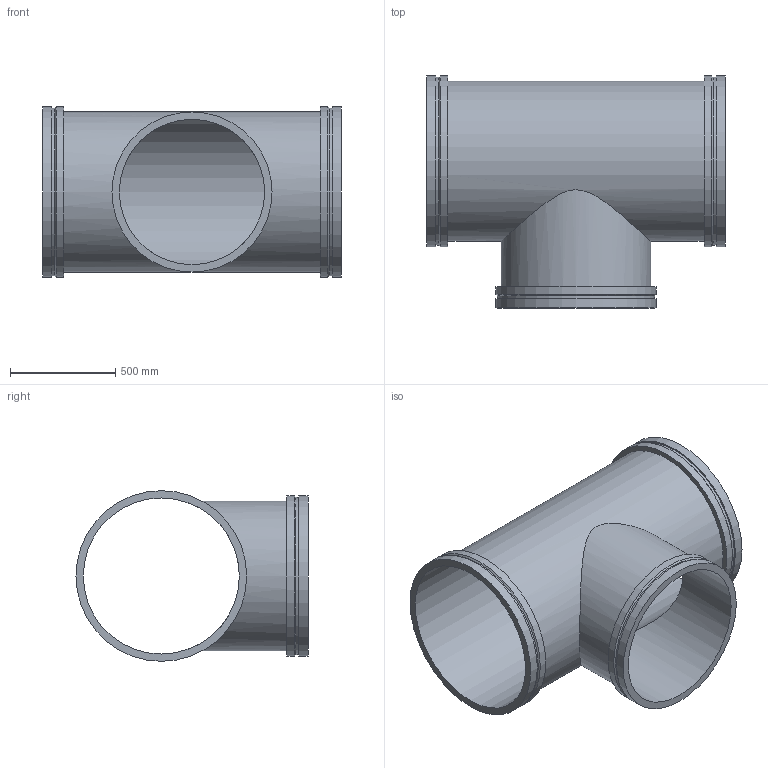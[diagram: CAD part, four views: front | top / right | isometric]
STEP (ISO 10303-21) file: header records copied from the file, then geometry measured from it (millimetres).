
FILE_DESCRIPTION(/* description */ ('VIC REDUCING TEE No W025 VR','CAx-IF Rec.Pracs.---Representation and Presentation of Product Manufacturing Information (PMI)---4.0---2014-10-13'),/* implementation_level */ '2;1');
FILE_NAME(/* name */ 'C:\Users\kkamble\AppData\Roaming\Autodesk\ApplicationPlugins\Back Up\Victaulic_Vic-Ring_Tee Reducing_No W25 VR (AGR)\Victaulic_Vic-Ring_Tee Reducing_No W25 VR (AGR)_30.0x28.0 (750x700).stp',/* time_stamp */ '2020-09-10T11:54:31+05:00',/* author */ ('mchristi'),/* organization */ ('Victaulic'),/* preprocessor_version */ 'ST-DEVELOPER v17.2',/* originating_system */ 'Autodesk Inventor 2019',/* authorisation */ '');
FILE_SCHEMA (('AP242_MANAGED_MODEL_BASED_3D_ENGINEERING_MIM_LF { 1 0 10303 442 1 1 4 }'));
Length unit declared in the file: inch
Products named in the file (1): W25 VR-30.0x28.0
Bounding box: 1422.4 x 1104.9 x 812.8 mm (x, y, z)
Volume: 54550969.1 mm3; surface area: 8256948.4 mm2
Topology: 1 solids, 1 shells, 25 faces, 68 edges, 52 vertices
Faces by surface type: cylinder 13, plane 9, cone 3
Full cylindrical faces by diameter (mm): 692.15 x1, 711.2 x1, 742.95 x1, 747.522 x1, 762 x3, 798.322 x2, 812.8 x4
Entity records: 1275 total; most frequent: CARTESIAN_POINT 431, DIRECTION 190, ORIENTED_EDGE 136, AXIS2_PLACEMENT_3D 87, EDGE_CURVE 68, VERTEX_POINT 52, CIRCLE 48, EDGE_LOOP 36
